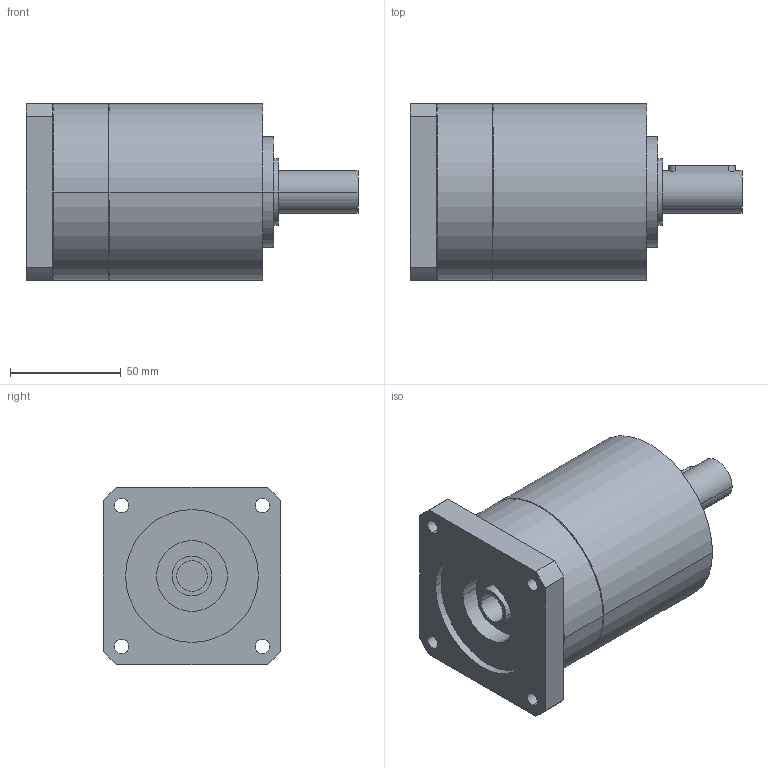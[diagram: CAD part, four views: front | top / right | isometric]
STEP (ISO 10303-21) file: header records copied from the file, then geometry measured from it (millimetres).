
FILE_DESCRIPTION(('CoCreate Modeling STEP Export'),'2;1');
FILE_NAME('GPR100_ig-3-4-5-6_19_B14_14_P19.stp','2014-08-26T10:07:17',(''),(''),'CoCreate Modeling STEP processor for AP214 (Solid Model)','CoCreate Modeling 16.00C 25-Feb-2009 (C) Parametric Technology GmbH','');
FILE_SCHEMA(('AUTOMOTIVE_DESIGN { 1 0 10303 214 1 1 1 1 }'));
Length unit declared in the file: millimetre
Products named in the file (2): GPR100_ig-3-4-5-6_19_B14_14_P19
Assembly tree (1 placements, depth 2):
  GPR100_ig-3-4-5-6_19_B14_14_P19
    GPR100_ig-3-4-5-6_19_B14_14_P19
Bounding box: 150 x 80 x 80 mm (x, y, z)
Volume: 550675.8 mm3; surface area: 49432.9 mm2
Topology: 1 solids, 1 shells, 82 faces, 221 edges, 157 vertices
Faces by surface type: cylinder 50, plane 26, cone 6
Entity records: 2244 total; most frequent: ORIENTED_EDGE 438, CARTESIAN_POINT 409, DIRECTION 302, EDGE_CURVE 219, VERTEX_POINT 157, AXIS2_PLACEMENT_3D 114, EDGE_LOOP 108, FACE_OUTER_BOUND 82
